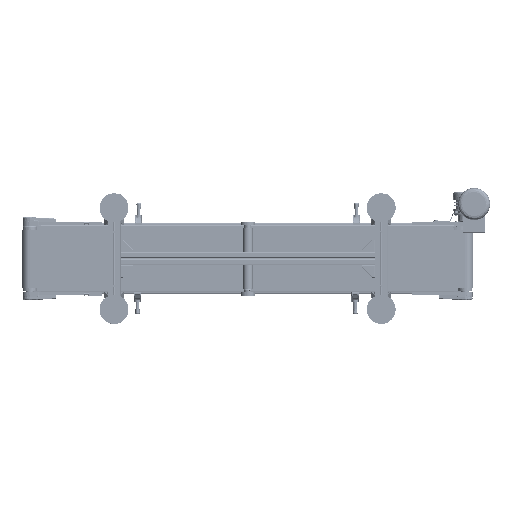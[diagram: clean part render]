
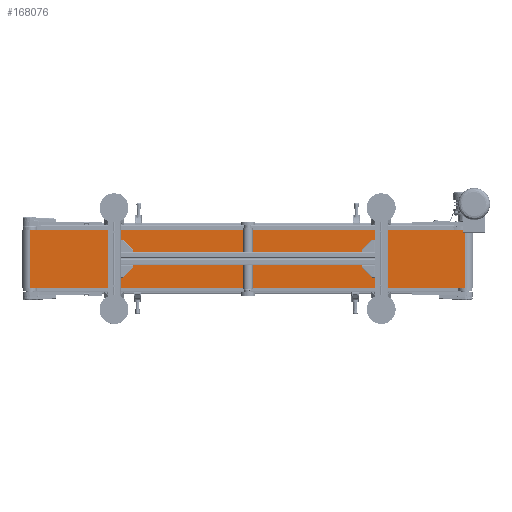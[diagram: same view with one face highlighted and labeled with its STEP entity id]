
A CAD part, front view. The second image highlights one B-rep face of the part: STEP entity #168076.
In plain terms, the highlighted planar face has unit normal (0, -1, 0).
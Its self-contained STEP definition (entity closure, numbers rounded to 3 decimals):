
#5210 = DIRECTION ( 'NONE',  ( 0., 0., -1. ) ) ;
#13081 = CARTESIAN_POINT ( 'NONE',  ( -750., -27., 100. ) ) ;
#15410 = CARTESIAN_POINT ( 'NONE',  ( -750., -27., -100. ) ) ;
#26779 = DIRECTION ( 'NONE',  ( 0., 0., -1. ) ) ;
#44268 = EDGE_LOOP ( 'NONE', ( #247313, #75476, #258059, #45188 ) ) ;
#45188 = ORIENTED_EDGE ( 'NONE', *, *, #86343, .T. ) ;
#59641 = VECTOR ( 'NONE', #127343, 1000. ) ;
#61215 = VERTEX_POINT ( 'NONE', #15410 ) ;
#64127 = CARTESIAN_POINT ( 'NONE',  ( 750., -27., -100. ) ) ;
#64964 = LINE ( 'NONE', #141173, #143997 ) ;
#66650 = PLANE ( 'NONE',  #216854 ) ;
#75476 = ORIENTED_EDGE ( 'NONE', *, *, #251840, .F. ) ;
#76061 = VECTOR ( 'NONE', #5210, 1000. ) ;
#83298 = VERTEX_POINT ( 'NONE', #135315 ) ;
#86343 = EDGE_CURVE ( 'NONE', #203905, #61215, #187646, .T. ) ;
#108672 = CARTESIAN_POINT ( 'NONE',  ( -750., -27., 100. ) ) ;
#109977 = DIRECTION ( 'NONE',  ( 0., 1., 0. ) ) ;
#121498 = DIRECTION ( 'NONE',  ( 1., 0., 0. ) ) ;
#127343 = DIRECTION ( 'NONE',  ( 1., 0., 0. ) ) ;
#135315 = CARTESIAN_POINT ( 'NONE',  ( 750., -27., 100. ) ) ;
#137115 = CARTESIAN_POINT ( 'NONE',  ( -750., -27., 100. ) ) ;
#141173 = CARTESIAN_POINT ( 'NONE',  ( -750., -27., -100. ) ) ;
#143997 = VECTOR ( 'NONE', #121498, 1000. ) ;
#149319 = FACE_OUTER_BOUND ( 'NONE', #44268, .T. ) ;
#168076 = ADVANCED_FACE ( 'NONE', ( #149319 ), #66650, .F. ) ;
#170984 = VERTEX_POINT ( 'NONE', #64127 ) ;
#187646 = LINE ( 'NONE', #248015, #76061 ) ;
#189542 = LINE ( 'NONE', #252487, #249640 ) ;
#203905 = VERTEX_POINT ( 'NONE', #137115 ) ;
#208761 = EDGE_CURVE ( 'NONE', #61215, #170984, #64964, .T. ) ;
#216854 = AXIS2_PLACEMENT_3D ( 'NONE', #108672, #109977, #229447 ) ;
#229447 = DIRECTION ( 'NONE',  ( 0., 0., 1. ) ) ;
#233594 = EDGE_CURVE ( 'NONE', #203905, #83298, #249425, .T. ) ;
#247313 = ORIENTED_EDGE ( 'NONE', *, *, #208761, .T. ) ;
#248015 = CARTESIAN_POINT ( 'NONE',  ( -750., -27., 100. ) ) ;
#249425 = LINE ( 'NONE', #13081, #59641 ) ;
#249640 = VECTOR ( 'NONE', #26779, 1000. ) ;
#251840 = EDGE_CURVE ( 'NONE', #83298, #170984, #189542, .T. ) ;
#252487 = CARTESIAN_POINT ( 'NONE',  ( 750., -27., 100. ) ) ;
#258059 = ORIENTED_EDGE ( 'NONE', *, *, #233594, .F. ) ;
